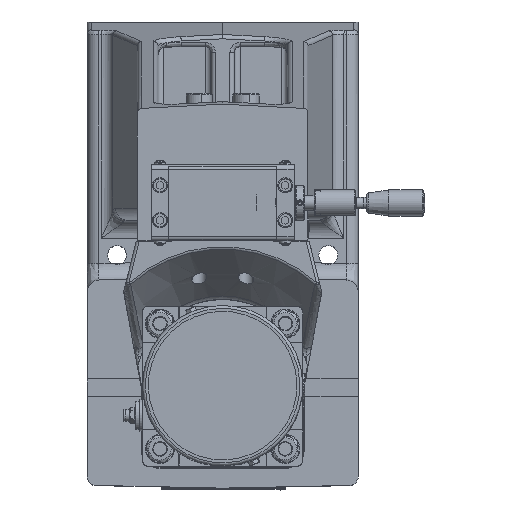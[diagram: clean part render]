
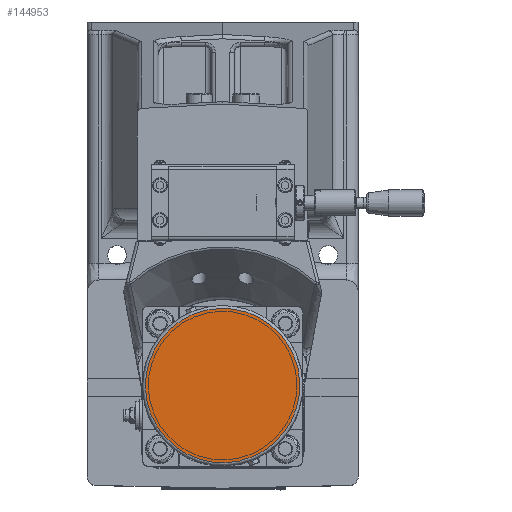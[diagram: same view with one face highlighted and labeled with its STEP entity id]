
A CAD part, top view. The second image highlights one B-rep face of the part: STEP entity #144953.
In plain terms, the highlighted planar face has unit normal (0, 0, 1).
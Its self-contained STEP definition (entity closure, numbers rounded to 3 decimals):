
#38048=PLANE('',#153012);
#44954=FACE_OUTER_BOUND('',#53002,.T.);
#53002=EDGE_LOOP('',(#112063));
#58686=CIRCLE('',#153011,53.);
#65603=VERTEX_POINT('',#216986);
#82313=EDGE_CURVE('',#65603,#65603,#58686,.T.);
#112063=ORIENTED_EDGE('',*,*,#82313,.F.);
#144953=ADVANCED_FACE('',(#44954),#38048,.F.);
#153011=AXIS2_PLACEMENT_3D('',#216987,#171097,#171098);
#153012=AXIS2_PLACEMENT_3D('',#216988,#171099,#171100);
#171097=DIRECTION('center_axis',(0.,0.,
-1.));
#171098=DIRECTION('ref_axis',(-0.924,-0.383,0.));
#171099=DIRECTION('center_axis',(0.,0.,
-1.));
#171100=DIRECTION('ref_axis',(-0.924,-0.383,0.));
#216986=CARTESIAN_POINT('',(48.966,-11.718,485.75));
#216987=CARTESIAN_POINT('Origin',(0.,-32.,
485.75));
#216988=CARTESIAN_POINT('Origin',(0.,-32.,
485.75));
